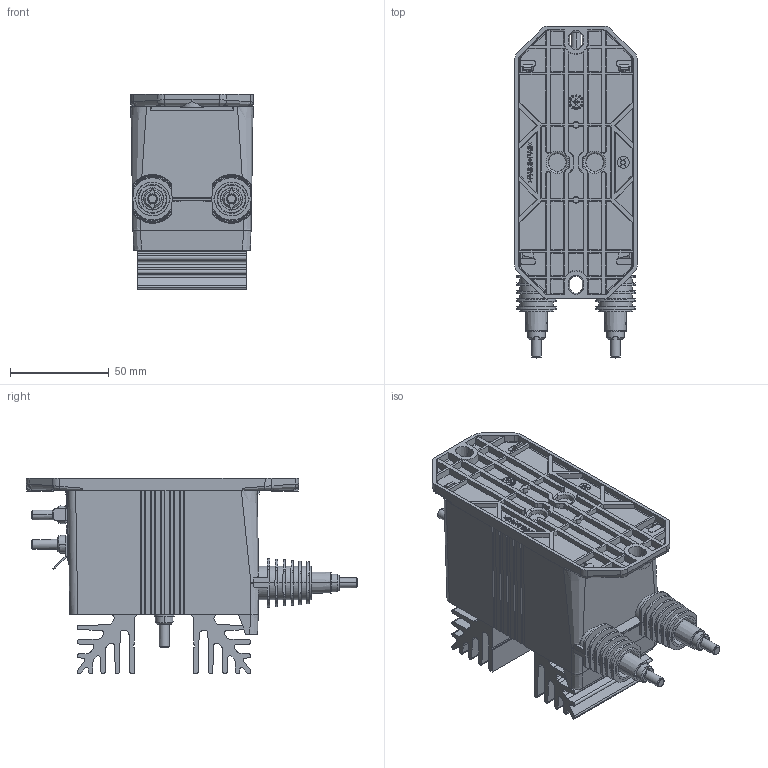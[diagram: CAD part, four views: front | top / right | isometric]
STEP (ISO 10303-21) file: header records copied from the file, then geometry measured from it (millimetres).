
FILE_DESCRIPTION(('Creo Elements/Direct Modeling STEP Export'),'2;1');
FILE_NAME('LV_100-3500_SP2.stp','2012-02-07T15:26:39',(''),(''),'Creo Elements/Direct Modeling STEP processor for AP214 (Solid Model)','Creo Elements/Direct Modeling 17.0C 05-Feb-2011 (C) Parametric Technology GmbH','');
FILE_SCHEMA(('AUTOMOTIVE_DESIGN { 1 0 10303 214 1 1 1 1 }'));
Products named in the file (2): boitier_T1_avec_iso_blcb.1
Assembly tree (1 placements, depth 2):
  boitier_T1_avec_iso_blcb.1
    boitier_T1_avec_iso_blcb.1
Bounding box: 62.21 x 168.14 x 99 mm (x, y, z)
Surface area: 111684.4 mm2 (no closed solid volume)
Topology: 0 solids, 11 shells, 2643 faces, 7283 edges, 4776 vertices
Faces by surface type: plane 1996, cylinder 477, cone 96, bspline 44, extrusion 18, torus 12
Entity records: 92745 total; most frequent: CARTESIAN_POINT 26306, ORIENTED_EDGE 14589, DIRECTION 12056, EDGE_CURVE 7283, VECTOR 5362, LINE 5343, VERTEX_POINT 4776, AXIS2_PLACEMENT_3D 3347
